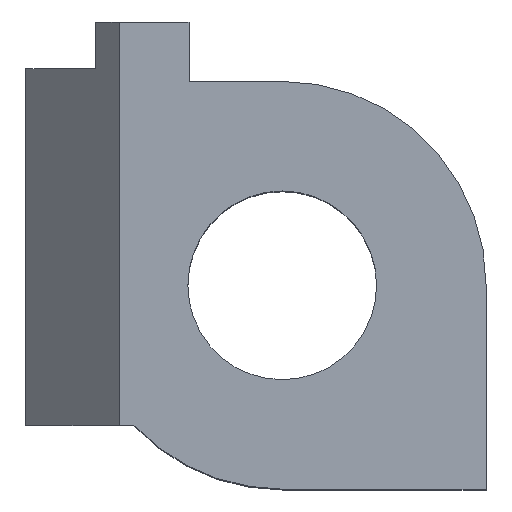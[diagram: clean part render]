
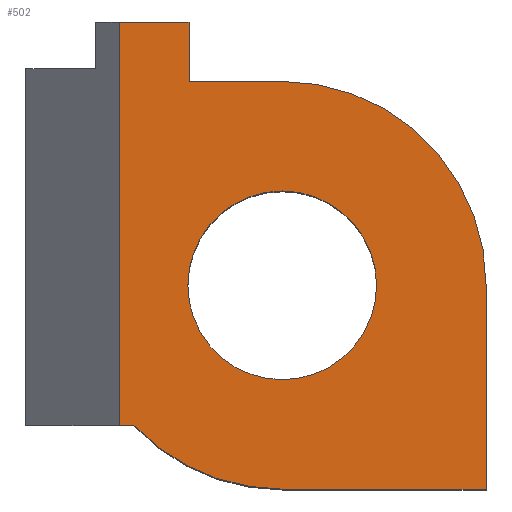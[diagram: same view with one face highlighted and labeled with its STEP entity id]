
A CAD part, top view. The second image highlights one B-rep face of the part: STEP entity #502.
In plain terms, the highlighted planar face has unit normal (0, 0, 1).
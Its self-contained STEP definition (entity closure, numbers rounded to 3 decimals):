
#23=FACE_BOUND('',#75,.T.);
#29=CIRCLE('',#546,8.75);
#30=CIRCLE('',#547,8.75);
#31=CIRCLE('',#548,4.05);
#47=FACE_OUTER_BOUND('',#74,.T.);
#74=EDGE_LOOP('',(#372,#373,#374,#375,#376,#377,#378,#379,#380));
#75=EDGE_LOOP('',(#381));
#99=LINE('',#725,#157);
#106=LINE('',#738,#164);
#120=LINE('',#773,#178);
#121=LINE('',#777,#179);
#122=LINE('',#779,#180);
#123=LINE('',#783,#181);
#124=LINE('',#784,#182);
#157=VECTOR('',#582,10.);
#164=VECTOR('',#591,20.);
#178=VECTOR('',#623,0.631);
#179=VECTOR('',#626,8.75);
#180=VECTOR('',#627,8.75);
#181=VECTOR('',#630,4.);
#182=VECTOR('',#631,5.25);
#215=VERTEX_POINT('',#722);
#216=VERTEX_POINT('',#724);
#221=VERTEX_POINT('',#736);
#233=VERTEX_POINT('',#772);
#234=VERTEX_POINT('',#774);
#235=VERTEX_POINT('',#776);
#236=VERTEX_POINT('',#778);
#237=VERTEX_POINT('',#780);
#238=VERTEX_POINT('',#782);
#239=VERTEX_POINT('',#785);
#263=EDGE_CURVE('',#216,#215,#99,.T.);
#270=EDGE_CURVE('',#221,#215,#106,.T.);
#287=EDGE_CURVE('',#233,#221,#120,.T.);
#288=EDGE_CURVE('',#234,#233,#29,.T.);
#289=EDGE_CURVE('',#235,#234,#121,.T.);
#290=EDGE_CURVE('',#236,#235,#122,.T.);
#291=EDGE_CURVE('',#237,#236,#30,.T.);
#292=EDGE_CURVE('',#238,#237,#123,.T.);
#293=EDGE_CURVE('',#216,#238,#124,.T.);
#294=EDGE_CURVE('',#239,#239,#31,.T.);
#372=ORIENTED_EDGE('',*,*,#263,.T.);
#373=ORIENTED_EDGE('',*,*,#270,.F.);
#374=ORIENTED_EDGE('',*,*,#287,.F.);
#375=ORIENTED_EDGE('',*,*,#288,.F.);
#376=ORIENTED_EDGE('',*,*,#289,.F.);
#377=ORIENTED_EDGE('',*,*,#290,.F.);
#378=ORIENTED_EDGE('',*,*,#291,.F.);
#379=ORIENTED_EDGE('',*,*,#292,.F.);
#380=ORIENTED_EDGE('',*,*,#293,.F.);
#381=ORIENTED_EDGE('',*,*,#294,.T.);
#483=PLANE('',#545);
#502=ADVANCED_FACE('',(#47,#23),#483,.T.);
#545=AXIS2_PLACEMENT_3D('',#771,#621,#622);
#546=AXIS2_PLACEMENT_3D('',#775,#624,#625);
#547=AXIS2_PLACEMENT_3D('',#781,#628,#629);
#548=AXIS2_PLACEMENT_3D('',#786,#632,#633);
#582=DIRECTION('',(-1.,0.,0.));
#591=DIRECTION('',(0.,1.,0.));
#621=DIRECTION('center_axis',(0.,0.,1.));
#622=DIRECTION('ref_axis',(1.,0.,0.));
#623=DIRECTION('',(-1.,0.,0.));
#624=DIRECTION('center_axis',(0.,0.,-1.));
#625=DIRECTION('ref_axis',(1.,0.,0.));
#626=DIRECTION('',(-1.,0.,0.));
#627=DIRECTION('',(0.,-1.,0.));
#628=DIRECTION('center_axis',(0.,0.,-1.));
#629=DIRECTION('ref_axis',(1.,0.,0.));
#630=DIRECTION('',(1.,0.,0.));
#631=DIRECTION('',(0.,-1.,0.));
#632=DIRECTION('center_axis',(0.,0.,-1.));
#633=DIRECTION('ref_axis',(-1.,0.,0.));
#722=CARTESIAN_POINT('',(-7.,11.3,9.9));
#724=CARTESIAN_POINT('',(-4.,11.3,9.9));
#725=CARTESIAN_POINT('',(-10.25,11.3,9.9));
#736=CARTESIAN_POINT('',(-7.,-6.,9.9));
#738=CARTESIAN_POINT('',(-7.,-6.,9.9));
#771=CARTESIAN_POINT('Origin',(-9.5,13.,9.9));
#772=CARTESIAN_POINT('',(-6.369,-6.,9.9));
#773=CARTESIAN_POINT('',(-6.369,-6.,9.9));
#774=CARTESIAN_POINT('',(0.,-8.75,9.9));
#775=CARTESIAN_POINT('Origin',(0.,0.,9.9));
#776=CARTESIAN_POINT('',(8.75,-8.75,9.9));
#777=CARTESIAN_POINT('',(8.75,-8.75,9.9));
#778=CARTESIAN_POINT('',(8.75,0.,9.9));
#779=CARTESIAN_POINT('',(8.75,0.,9.9));
#780=CARTESIAN_POINT('',(0.,8.75,9.9));
#781=CARTESIAN_POINT('Origin',(0.,0.,9.9));
#782=CARTESIAN_POINT('',(-4.,8.75,9.9));
#783=CARTESIAN_POINT('',(-4.,8.75,9.9));
#784=CARTESIAN_POINT('',(-4.,14.,9.9));
#785=CARTESIAN_POINT('',(4.05,0.,9.9));
#786=CARTESIAN_POINT('Origin',(0.,0.,9.9));
